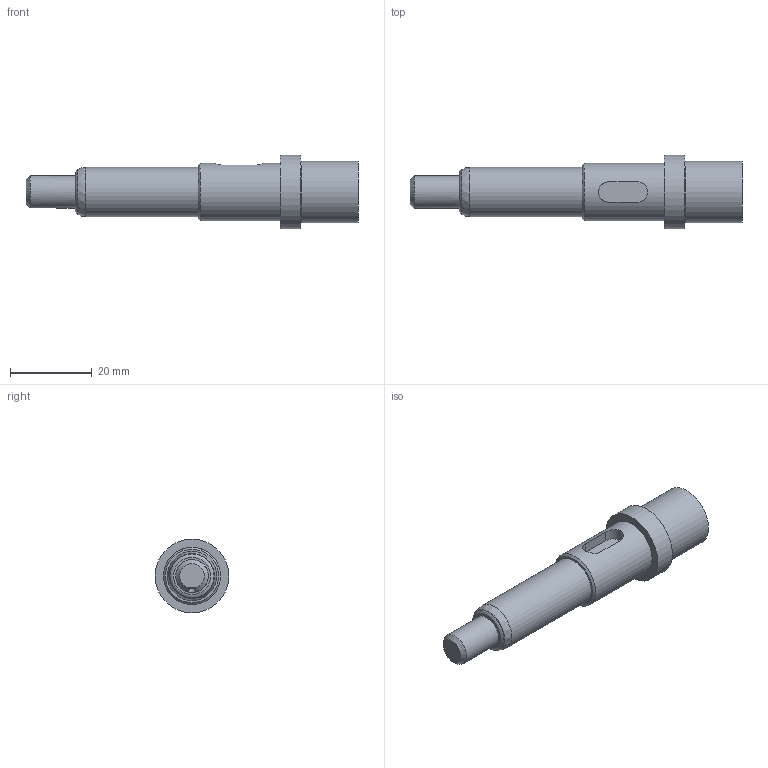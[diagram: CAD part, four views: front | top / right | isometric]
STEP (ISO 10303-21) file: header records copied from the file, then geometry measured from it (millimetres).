
FILE_DESCRIPTION(/* description */ (''),/* implementation_level */ '2;1');
FILE_NAME(/* name */ 'C:\Users\3sil_cad003\Desktop\600905E1008\600905E1008-축.stp',/* time_stamp */ '2020-09-19T11:34:00+09:00',/* author */ ('3sil_cad003'),/* organization */ (''),/* preprocessor_version */ 'ST-DEVELOPER v16.1',/* originating_system */ 'Autodesk Inventor 2016',/* authorisation */ '');
FILE_SCHEMA (('AUTOMOTIVE_DESIGN { 1 0 10303 214 3 1 1 }'));
Length unit declared in the file: millimetre
Products named in the file (1): 부품1
Bounding box: 81 x 18 x 18 mm (x, y, z)
Volume: 10601.6 mm3; surface area: 3790.1 mm2
Topology: 1 solids, 1 shells, 28 faces, 59 edges, 38 vertices
Faces by surface type: plane 12, cylinder 10, cone 3, torus 2, bspline 1
Full cylindrical faces by diameter (mm): 8 x1, 12 x1, 14 x1, 15 x1, 18 x1
Entity records: 808 total; most frequent: CARTESIAN_POINT 220, DIRECTION 119, ORIENTED_EDGE 100, AXIS2_PLACEMENT_3D 51, EDGE_CURVE 49, EDGE_LOOP 42, VERTEX_POINT 37, FACE_OUTER_BOUND 28
